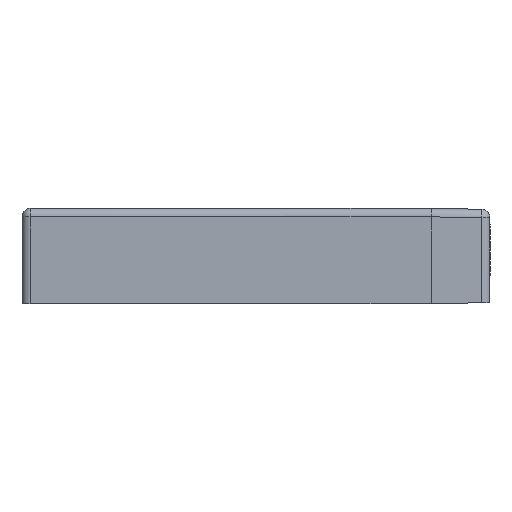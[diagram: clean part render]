
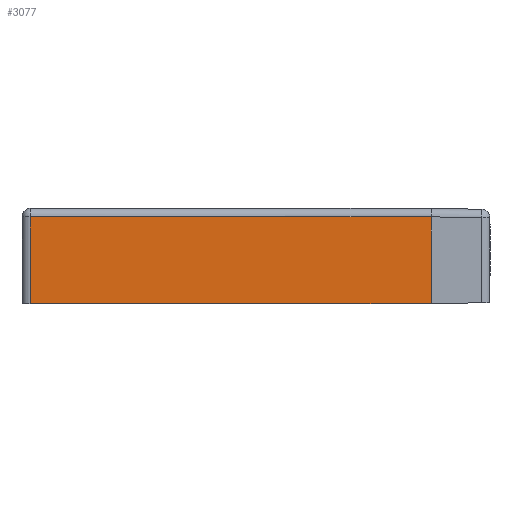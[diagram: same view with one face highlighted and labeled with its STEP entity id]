
A CAD part, front view. The second image highlights one B-rep face of the part: STEP entity #3077.
In plain terms, the highlighted planar face has unit normal (0, -1, -0.018).
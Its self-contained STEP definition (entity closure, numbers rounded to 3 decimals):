
#3077=ADVANCED_FACE('',(#5613),#4533,.F.);
#4533=PLANE('',#31778);
#5613=FACE_OUTER_BOUND('',#7200,.T.);
#7200=EDGE_LOOP('',(#10902,#10903,#10904,#10905,#10906));
#10902=ORIENTED_EDGE('',*,*,#20720,.T.);
#10903=ORIENTED_EDGE('',*,*,#20719,.T.);
#10904=ORIENTED_EDGE('',*,*,#22169,.T.);
#10905=ORIENTED_EDGE('',*,*,#21989,.T.);
#10906=ORIENTED_EDGE('',*,*,#22170,.T.);
#17679=VERTEX_POINT('',#40758);
#17680=VERTEX_POINT('',#40760);
#17681=VERTEX_POINT('',#40762);
#18810=VERTEX_POINT('',#45034);
#18811=VERTEX_POINT('',#45036);
#20719=EDGE_CURVE('',#17680,#17679,#25187,.T.);
#20720=EDGE_CURVE('',#17681,#17680,#25188,.T.);
#21989=EDGE_CURVE('',#18811,#18810,#25958,.T.);
#22169=EDGE_CURVE('',#17679,#18811,#26118,.T.);
#22170=EDGE_CURVE('',#18810,#17681,#26119,.T.);
#25187=LINE('',#40759,#28170);
#25188=LINE('',#40761,#28171);
#25958=LINE('',#45035,#28945);
#26118=LINE('',#45846,#29170);
#26119=LINE('',#45847,#29171);
#28170=VECTOR('',#33378,1.);
#28171=VECTOR('',#33379,1.);
#28945=VECTOR('',#34747,1.);
#29170=VECTOR('',#35182,1.);
#29171=VECTOR('',#35183,1.);
#31778=AXIS2_PLACEMENT_3D('',#45848,#35184,#35185);
#33378=DIRECTION('',(1.,0.,0.));
#33379=DIRECTION('',(1.,0.,0.));
#34747=DIRECTION('',(-1.,0.,0.));
#35182=DIRECTION('',(0.,-0.017,1.));
#35183=DIRECTION('',(0.,0.017,-1.));
#35184=DIRECTION('',(0.,1.,0.017));
#35185=DIRECTION('',(0.,-0.017,1.));
#40758=CARTESIAN_POINT('',(59.008,-172.436,-15.474));
#40759=CARTESIAN_POINT('',(48.008,-172.436,-15.474));
#40760=CARTESIAN_POINT('',(37.008,-172.436,-15.474));
#40761=CARTESIAN_POINT('',(1.258,-172.436,-15.474));
#40762=CARTESIAN_POINT('',(-12.492,-172.436,-15.474));
#45034=CARTESIAN_POINT('',(-12.492,-172.706,0.));
#45035=CARTESIAN_POINT('',(1.258,-172.706,0.));
#45036=CARTESIAN_POINT('',(59.008,-172.706,0.007));
#45846=CARTESIAN_POINT('',(59.008,-172.571,-7.737));
#45847=CARTESIAN_POINT('',(-12.492,-172.571,-7.737));
#45848=CARTESIAN_POINT('',(15.008,-172.706,0.029));
